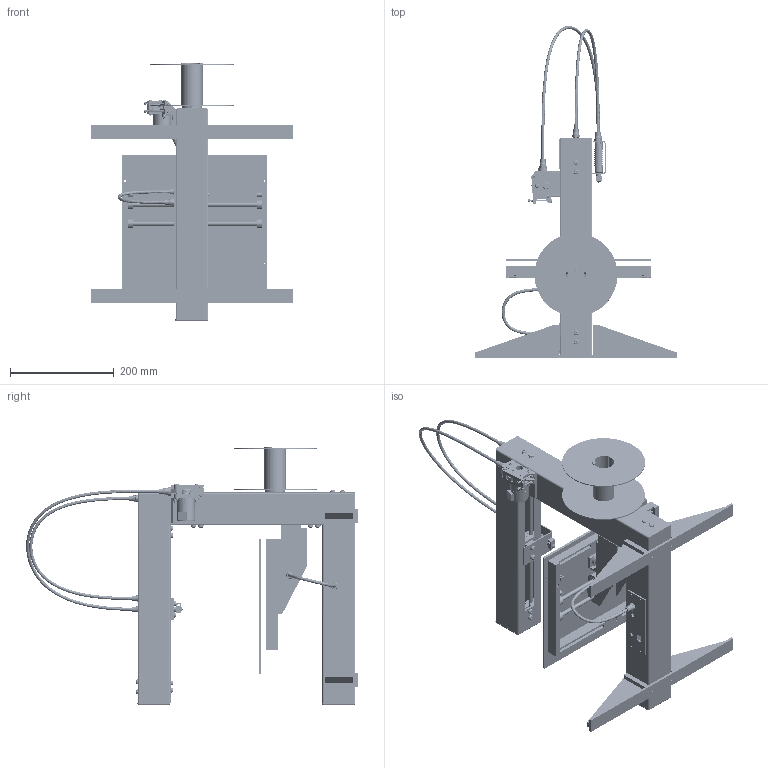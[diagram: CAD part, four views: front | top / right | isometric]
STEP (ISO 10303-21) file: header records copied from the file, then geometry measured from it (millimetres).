
FILE_DESCRIPTION(/* description */ (''),/* implementation_level */ '2;1');
FILE_NAME(/* name */ '/Users/schneik/Desktop/eventorbot 1.2.stp',/* time_stamp */ '2013-03-18T23:18:34-07:00',/* author */ (''),/* organization */ (''),/* preprocessor_version */ 'ST-DEVELOPER v15.2',/* originating_system */ 'Autodesk Translator Framework v2.0.1.0',/* authorisation */ '');
FILE_SCHEMA (('AUTOMOTIVE_DESIGN { 1 0 10303 214 3 1 1 }'));
Products named in the file (89): Foot Bracket; Foot; Foot Assembly_1; Foot Assembly_2; Push to connect fitting ( PN - Parker 3601 06 60) ; Motor (PN - PG35L-048); 8mm idler rod; idler arm 3mm; Bearing (PN - 608zz); Idler Assembly; 90017_M3-0; DIN 6796 - 3; ISO 7380 - M3 x 12; ISO 4032 - M3ISO; ISO 7380 - M3 x 30; ISO 7380 - M5 x 20; DIN 137 - B5; ISO 4032 - M5ISO; DIN 128 - A5; Idler Spring; ISO 7380 - M3 x 45; Build Platform; Bed Frame 01; Bed Frame 02; Bed Belt Bracket; 8mm Bed Shaft; 8mm Shaft Retainer; Bed Frame; Bed; Y Bed Brace; Y Pully Bracket 01; Y Pully Bracket 02; Y Carriage; 8 mm Linear Bearing; NEMA 17; Pully; ISO 7380 - M5 x 40; ISO 4762 - M3 x 16ISO; DIN 137 - B3; DIN 128 - A3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
Bounding box: 388.3 x 639.15 x 497.8 mm (x, y, z)
Volume: 2494694.1 mm3; surface area: 1523861.5 mm2
Topology: 308 solids, 308 shells, 6787 faces, 16305 edges, 10361 vertices
Faces by surface type: plane 4362, cylinder 1287, cone 673, torus 383, sphere 44, bspline 38
Full cylindrical faces by diameter (mm): 0.4 x1, 1.5 x1, 2 x9, 2.068 x1, 2.459 x5, 2.5 x5, 3 x65, 3.175 x2, 3.2 x24, 3.5 x26, 4 x4, 4.013 x2, 4.064 x4, 4.134 x20, 4.4 x1, 4.572 x14, 4.618 x12, 4.631 x11, 4.725 x3, 5 x48, 5.2 x4, 5.3 x27, 5.5 x28, 5.7 x5, 6 x18, 6.2 x12, 6.4 x10, 7 x18, 7.288 x1, 7.4 x5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
Entity records: 98327 total; most frequent: CARTESIAN_POINT 29664, DIRECTION 13531, ORIENTED_EDGE 13420, EDGE_CURVE 6710, AXIS2_PLACEMENT_3D 5007, VERTEX_POINT 4744, EDGE_LOOP 3814, LINE 3517
